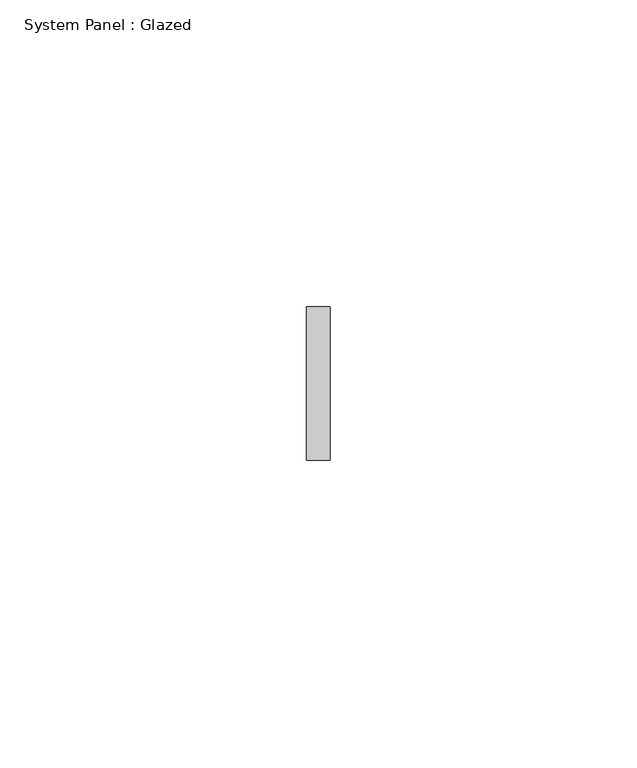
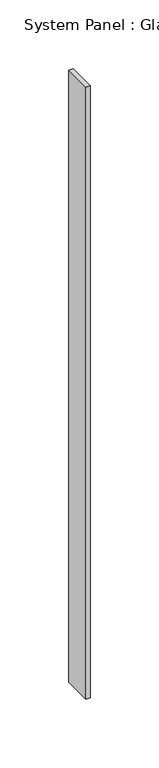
"""IFC4 building model written with IfcOpenShell, lengths in millimetres: plate geometry, System Panel : Glazed."""

from ifc_helpers import new_model, si_unit, origin, origin_with_axes, place, context, project, spatial, polyline, outline, extrude, source, transform, mapped, element, save


def system_panel_glazed_bf098422(model_context):
    return source(origin(), model_context, "Body", "SweptSolid", [
        extrude(outline(polyline([(1.9081169, -12.5), (-1.9081169, -12.5), (-1.9081169, 12.5), (1.9081169, 12.5), (1.9081169, -12.5)])), origin_with_axes(), (0.0, 0.0, 1.0), 545.0),
    ])


if __name__ == "__main__":
    model = new_model("IFC4")
    model_context = context("Model", 3, world=origin())
    ifc_project = project(units=[si_unit("LENGTHUNIT", "METRE", prefix="MILLI")], contexts=[model_context])
    site = spatial("IfcSite", under=ifc_project)
    building = spatial("IfcBuilding", under=site)
    placement = place(None, origin())
    system_panel_glazed_shape = system_panel_glazed_bf098422(model_context)
    element("IfcPlate", 1, ObjectType="System Panel : Glazed", at=placement, inside=building, context=model_context, shape_type="MappedRepresentation", body=[
        mapped(system_panel_glazed_shape, transform((0.0, 0.0, 0.0), x_axis=(1.0, 0.0, 0.0), y_axis=(0.0, 1.0, 0.0), z_axis=(0.0, 0.0, 1.0))),
    ])
    save(model, "model.ifc")
